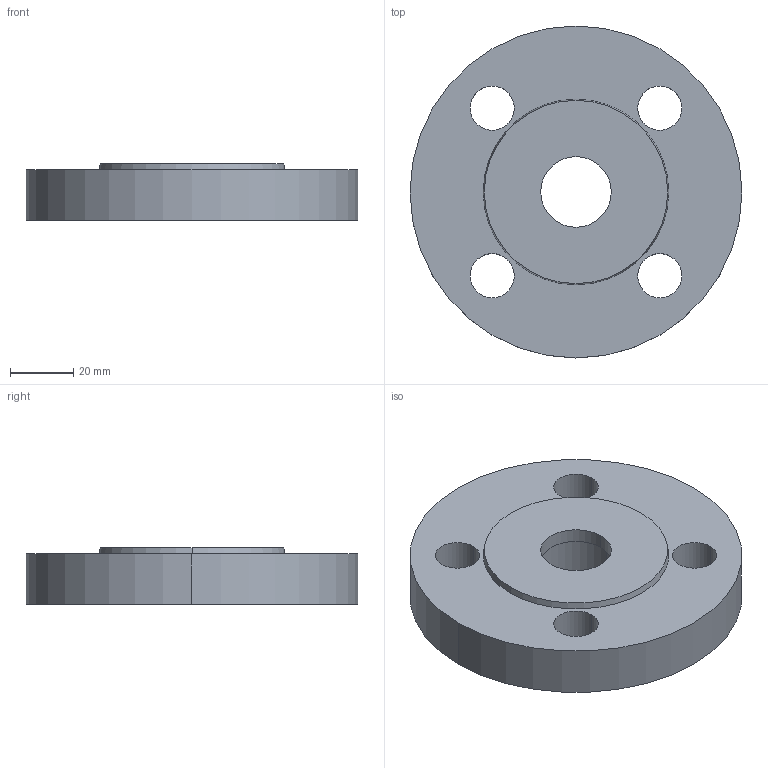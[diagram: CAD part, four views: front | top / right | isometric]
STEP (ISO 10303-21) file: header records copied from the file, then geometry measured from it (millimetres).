
FILE_DESCRIPTION (( 'STEP AP214' ), '1' );
FILE_NAME ('PN40 DN20 Type 05 - Socket (Type B) - Not in Standard.STEP', '2018-12-29T18:27:03', ( '' ), ( '' ), 'SwSTEP 2.0', 'SolidWorks 2019', '' );
FILE_SCHEMA (( 'AUTOMOTIVE_DESIGN' ));
Length unit declared in the file: millimetre
Products named in the file (1): PN40 DN20 Type 05 - Socket (Type B) - Not in Standard
Bounding box: 105 x 105 x 18 mm (x, y, z)
Volume: 124264.9 mm3; surface area: 25187.3 mm2
Topology: 1 solids, 1 shells, 20 faces, 48 edges, 32 vertices
Faces by surface type: cylinder 14, plane 4, cone 2
Entity records: 658 total; most frequent: DIRECTION 122, CARTESIAN_POINT 101, ORIENTED_EDGE 96, AXIS2_PLACEMENT_3D 53, EDGE_CURVE 48, CIRCLE 32, EDGE_LOOP 32, VERTEX_POINT 32
